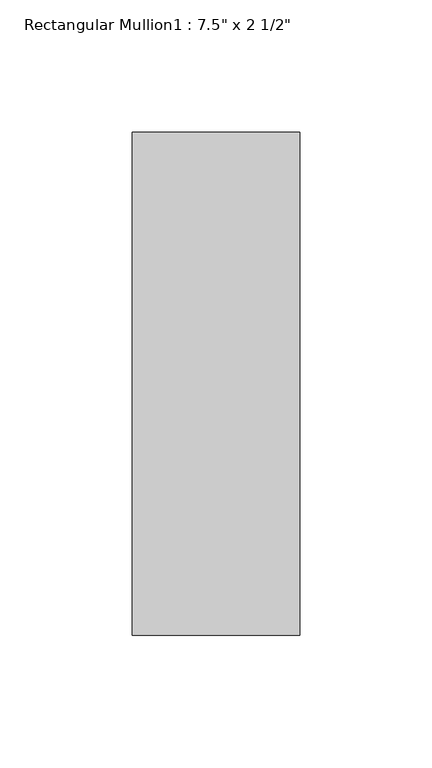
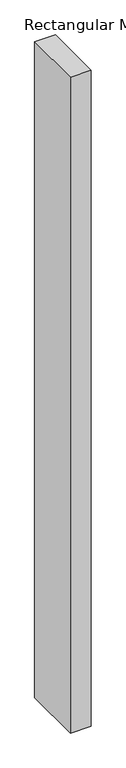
"""IFC4 building model written with IfcOpenShell, lengths in millimetres: member geometry."""

import ifcopenshell
import ifcopenshell.guid

model = None  # the IFC model being written
_history = None  # IfcOwnerHistory: only IFC2X3 demands one
_inside = {}  # id of a spatial element -> (the spatial element, [elements in it])
_under = {}  # id of a project, library or spatial element -> (it, [spatial elements below it])
_declared = {}  # id of a project -> (the project, [libraries it declares])
_typed = {}  # id of a type object -> (the type object, [elements of that type])
_made_of = {}  # id of a material, layer set ... -> (it, [elements and type objects made of it])


def new_model(schema):
    """Start an empty IFC model of exactly this schema.

    Asked for "IFC4X3", IfcOpenShell would pick the latest addendum, in which some entities
    have other attributes; the version numbers below select the first issue.
    IFC2X3 requires an IfcOwnerHistory on every rooted entity: one is made here for all.
    """
    global model, _history
    if schema == "IFC4X3":
        model = ifcopenshell.file(schema_version=(4, 3, 0, 0))
    else:
        model = ifcopenshell.file(schema=schema)
    _inside.clear()
    _under.clear()
    _declared.clear()
    _typed.clear()
    _made_of.clear()
    _history = None
    if model.schema == "IFC2X3":
        org = make("IfcOrganization", Name="unknown")
        user = make(
            "IfcPersonAndOrganization",
            ThePerson=make("IfcPerson", FamilyName="unknown"),
            TheOrganization=org,
        )
        app = make(
            "IfcApplication",
            ApplicationDeveloper=org,
            Version="unknown",
            ApplicationFullName="unknown",
            ApplicationIdentifier="unknown",
        )
        _history = make(
            "IfcOwnerHistory",
            OwningUser=user,
            OwningApplication=app,
            ChangeAction="ADDED",
            CreationDate=0,
        )
    return model


def make(cls, **values):
    """One entity of the class cls with the attributes given. An attribute that is None is left unset."""
    return model.create_entity(
        cls, **{name: value for name, value in values.items() if value is not None}
    )


def rooted(cls, **values):
    """An entity with a GlobalId (a new one), such as an element, a storey or a relation."""
    return make(cls, GlobalId=ifcopenshell.guid.new(), OwnerHistory=_history, **values)


def si_unit(unit_type, name, prefix=None):
    """IfcSIUnit, for example si_unit("LENGTHUNIT", "METRE", prefix="MILLI")."""
    return make("IfcSIUnit", UnitType=unit_type, Prefix=prefix, Name=name)


def assignment(units):
    """IfcUnitAssignment: the units of a project."""
    return None if units is None else make("IfcUnitAssignment", Units=units)


def point(xyz):
    """IfcCartesianPoint."""
    return None if xyz is None else make("IfcCartesianPoint", Coordinates=xyz)


def direction(xyz):
    """IfcDirection."""
    return None if xyz is None else make("IfcDirection", DirectionRatios=xyz)


def frame(location, z_axis=None, x_axis=None):
    """IfcAxis2Placement3D, a coordinate frame: its origin and axes. An axis left out is left unset."""
    return make(
        "IfcAxis2Placement3D",
        Location=point(location),
        Axis=direction(z_axis),
        RefDirection=direction(x_axis),
    )


def origin():
    """The frame at (0, 0, 0) with its axes left unset."""
    return frame((0.0, 0.0, 0.0))


def place(relative_to, where):
    """IfcLocalPlacement: puts the frame where relative to a parent placement (None: the world)."""
    return make(
        "IfcLocalPlacement", PlacementRelTo=relative_to, RelativePlacement=where
    )


def context(
    kind, dimensions, precision=None, world=None, true_north=None, identifier=None
):
    """IfcGeometricRepresentationContext, for example the 3D "Model" context."""
    return make(
        "IfcGeometricRepresentationContext",
        ContextIdentifier=identifier,
        ContextType=kind,
        CoordinateSpaceDimension=dimensions,
        Precision=precision,
        WorldCoordinateSystem=world,
        TrueNorth=true_north,
    )


def project(units=None, contexts=None):
    """IfcProject with its units and contexts."""
    return rooted(
        "IfcProject",
        Name="project",
        RepresentationContexts=contexts,
        UnitsInContext=assignment(units),
    )


def spatial(cls, under=None, at=None, **own):
    """A site, building, storey or space (cls), placed at a placement, below another one or the project."""
    s = rooted(cls, ObjectPlacement=at, **own)
    if under is not None:
        _under.setdefault(under.id(), (under, []))[1].append(s)
    return s


def polyline(points):
    """IfcPolyline through the points."""
    return make("IfcPolyline", Points=[point(p) for p in points])


def outline(outer, holes=None, kind="AREA"):
    """IfcArbitraryClosedProfileDef: a profile drawn as a closed curve; with holes, ...WithVoids."""
    if holes is None:
        return make("IfcArbitraryClosedProfileDef", ProfileType=kind, OuterCurve=outer)
    return make(
        "IfcArbitraryProfileDefWithVoids",
        ProfileType=kind,
        OuterCurve=outer,
        InnerCurves=holes,
    )


def extrude(swept, where, along, depth):
    """IfcExtrudedAreaSolid: the profile swept, set in the frame where, extruded along a direction by depth."""
    return make(
        "IfcExtrudedAreaSolid",
        SweptArea=swept,
        Position=where,
        ExtrudedDirection=direction(along),
        Depth=depth,
    )


def shape(context_of_items, identifier, shape_type, items):
    """IfcShapeRepresentation: the items that make up one representation, for example the "Body"."""
    return make(
        "IfcShapeRepresentation",
        ContextOfItems=context_of_items,
        RepresentationIdentifier=identifier,
        RepresentationType=shape_type,
        Items=items,
    )


def source(mapping_origin, context_of_items, identifier, shape_type, items):
    """IfcRepresentationMap: a shape defined once, which mapped items show again and again."""
    return make(
        "IfcRepresentationMap",
        MappingOrigin=mapping_origin,
        MappedRepresentation=shape(context_of_items, identifier, shape_type, items),
    )


def transform(
    local_origin,
    x_axis=None,
    y_axis=None,
    z_axis=None,
    scale=None,
    scale2=None,
    scale3=None,
    uniform=True,
):
    """IfcCartesianTransformationOperator3D, or its non-uniform kind. x_axis, y_axis, z_axis: its Axis1, 2, 3."""
    if uniform:
        return make(
            "IfcCartesianTransformationOperator3D",
            Axis1=direction(x_axis),
            Axis2=direction(y_axis),
            LocalOrigin=point(local_origin),
            Scale=scale,
            Axis3=direction(z_axis),
        )
    return make(
        "IfcCartesianTransformationOperator3DnonUniform",
        Axis1=direction(x_axis),
        Axis2=direction(y_axis),
        LocalOrigin=point(local_origin),
        Scale=scale,
        Axis3=direction(z_axis),
        Scale2=scale2,
        Scale3=scale3,
    )


def mapped(mapping_source, mapping_target):
    """IfcMappedItem: shows the shape of a source again, moved by a transform."""
    return make(
        "IfcMappedItem", MappingSource=mapping_source, MappingTarget=mapping_target
    )


def made_of(thing, what):
    """Note that an element or type object is made of a material, layer set ...; save() writes the relation."""
    if what is not None:
        _made_of.setdefault(what.id(), (what, []))[1].append(thing)
    return thing


def element(
    cls,
    number,
    at=None,
    inside=None,
    cuts=None,
    type_object=None,
    material=None,
    context=None,
    identifier="Body",
    shape_type=None,
    held_by="IfcProductDefinitionShape",
    body=None,
    shapes=None,
    **own,
):
    """One element of the class cls, such as IfcWall. Its Tag is "e" and its number.

    at: its placement. inside: the storey or other place that contains it. cuts: it is an
    opening in that element (IfcRelVoidsElement). A single representation is given by context,
    identifier, shape_type and body (its items); several are given by shapes. held_by: the class
    of the entity that holds the representations. save() writes the other relations.
    """
    e = rooted(cls, Tag="e%d" % number, ObjectPlacement=at, **own)
    if body is not None:
        shapes = [shape(context, identifier, shape_type, body)]
    if shapes is not None:
        e.Representation = make(held_by, Representations=shapes)
    if inside is not None:
        _inside.setdefault(inside.id(), (inside, []))[1].append(e)
    if cuts is not None:
        rooted(
            "IfcRelVoidsElement", RelatingBuildingElement=cuts, RelatedOpeningElement=e
        )
    if type_object is not None:
        _typed.setdefault(type_object.id(), (type_object, []))[1].append(e)
    return made_of(e, material)


def aggregate(whole, parts):
    """IfcRelAggregates: a whole, such as a stair, and the parts it consists of."""
    return rooted("IfcRelAggregates", RelatingObject=whole, RelatedObjects=parts)


def save(model, path):
    """Write the relations noted so far, then the file.

    IfcRelAggregates (storeys below a building ...), IfcRelContainedInSpatialStructure (elements
    in a storey), IfcRelDefinesByType, IfcRelAssociatesMaterial and IfcRelDeclares: one each for
    every whole, place, type object, material and project.
    """
    for whole, parts in _under.values():
        aggregate(whole, parts)
    for where, things in _inside.values():
        rooted(
            "IfcRelContainedInSpatialStructure",
            RelatedElements=things,
            RelatingStructure=where,
        )
    for kind, things in _typed.values():
        rooted("IfcRelDefinesByType", RelatedObjects=things, RelatingType=kind)
    for what, things in _made_of.values():
        rooted("IfcRelAssociatesMaterial", RelatedObjects=things, RelatingMaterial=what)
    for by, libraries in _declared.values():
        rooted("IfcRelDeclares", RelatingContext=by, RelatedDefinitions=libraries)
    model.write(path)


def member_a7eb80dc(model_context):
    return source(origin(), model_context, "Body", "SweptSolid", [
        extrude(outline(polyline([(0.0, 165.1), (0.0, -25.4), (-63.5, -25.4), (-63.5, 165.1), (0.0, 165.1)])), frame((0.0, 0.0, -2133.6), z_axis=(0.0, 0.0, 1.0), x_axis=(1.0, 0.0, 0.0)), (0.0, 0.0, 1.0), 2133.6),
    ])


if __name__ == "__main__":
    model = new_model("IFC4")
    model_context = context("Model", 3, world=origin())
    ifc_project = project(units=[si_unit("LENGTHUNIT", "METRE", prefix="MILLI")], contexts=[model_context])
    site = spatial("IfcSite", under=ifc_project)
    building = spatial("IfcBuilding", under=site)
    placement = place(None, origin())
    member_shape = member_a7eb80dc(model_context)
    element("IfcMember", 1, ObjectType="Rectangular Mullion1 : 7.5\" x 2 1/2\"", at=placement, inside=building, context=model_context, shape_type="MappedRepresentation", body=[
        mapped(member_shape, transform((0.0, 0.0, 0.0), x_axis=(1.0, 0.0, 0.0), y_axis=(0.0, 1.0, 0.0), z_axis=(0.0, 0.0, 1.0))),
    ])
    save(model, "model.ifc")
